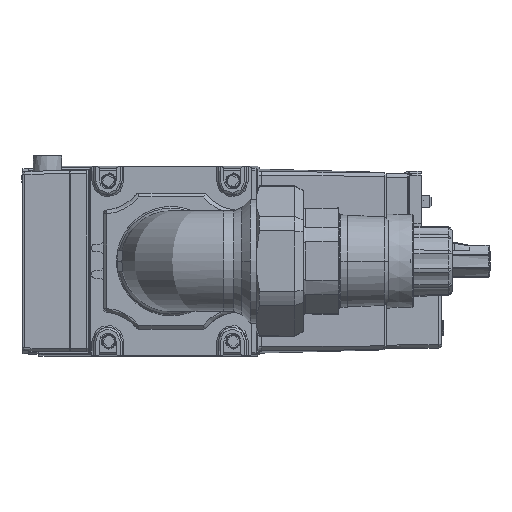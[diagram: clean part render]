
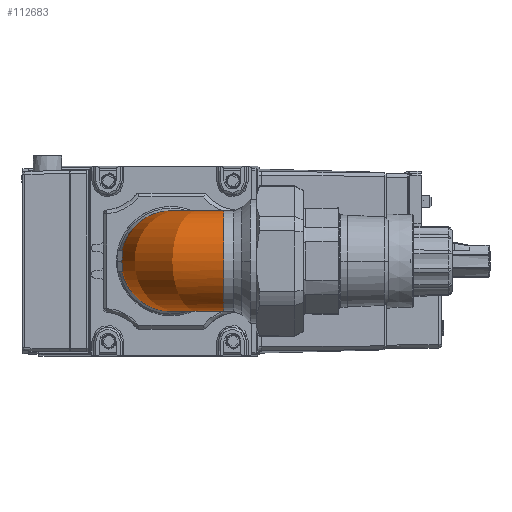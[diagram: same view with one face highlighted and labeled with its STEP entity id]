
A CAD part, left-side view. The second image highlights one B-rep face of the part: STEP entity #112683.
In plain terms, the highlighted toroidal (fillet/blend) face has major radius 28 mm and minor radius 26.65 mm.
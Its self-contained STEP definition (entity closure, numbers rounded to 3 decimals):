
#1986 = CARTESIAN_POINT ( 'NONE',  ( -3.2, -26.575, -2. ) ) ;
#4062 = CARTESIAN_POINT ( 'NONE',  ( -3.2, 26.076, 5.5 ) ) ;
#4167 = CARTESIAN_POINT ( 'NONE',  ( -3.2, -28., -2. ) ) ;
#4674 = CIRCLE ( 'NONE', #96260, 26.65 ) ;
#4980 = CARTESIAN_POINT ( 'NONE',  ( -31.2, -28., 0. ) ) ;
#6630 = AXIS2_PLACEMENT_3D ( 'NONE', #44639, #105920, #53480 ) ;
#9391 = VERTEX_POINT ( 'NONE', #112924 ) ;
#12886 = EDGE_CURVE ( 'NONE', #85911, #56381, #43354, .T. ) ;
#12959 = DIRECTION ( 'NONE',  ( 0., -1., 0. ) ) ;
#13126 = CIRCLE ( 'NONE', #46553, 1.425 ) ;
#13718 = CARTESIAN_POINT ( 'NONE',  ( -11.007, 25.51, 5.5 ) ) ;
#13786 = DIRECTION ( 'NONE',  ( -1., 0., 0. ) ) ;
#14712 = CIRCLE ( 'NONE', #52782, 1.425 ) ;
#16890 = EDGE_CURVE ( 'NONE', #56381, #20081, #91647, .T. ) ;
#16931 = DIRECTION ( 'NONE',  ( 0., 0., 1. ) ) ;
#20081 = VERTEX_POINT ( 'NONE', #68589 ) ;
#22061 = EDGE_CURVE ( 'NONE', #65025, #85911, #69643, .T. ) ;
#22132 = CARTESIAN_POINT ( 'NONE',  ( -10.873, 25.917, 3.684 ) ) ;
#22512 = CARTESIAN_POINT ( 'NONE',  ( -11.168, 26.066, 0. ) ) ;
#24093 = DIRECTION ( 'NONE',  ( 0., 0., -1. ) ) ;
#25259 = EDGE_CURVE ( 'NONE', #102565, #57806, #13126, .T. ) ;
#26131 = ORIENTED_EDGE ( 'NONE', *, *, #68740, .T. ) ;
#26315 = CIRCLE ( 'NONE', #31869, 26.65 ) ;
#29608 = CARTESIAN_POINT ( 'NONE',  ( -11.007, 25.51, -5.5 ) ) ;
#31201 = CARTESIAN_POINT ( 'NONE',  ( -3.2, -28., 0. ) ) ;
#31253 = ORIENTED_EDGE ( 'NONE', *, *, #84365, .T. ) ;
#31440 = CIRCLE ( 'NONE', #93140, 54.076 ) ;
#31869 = AXIS2_PLACEMENT_3D ( 'NONE', #49835, #111090, #58630 ) ;
#37287 = ORIENTED_EDGE ( 'NONE', *, *, #105089, .T. ) ;
#43354 = B_SPLINE_CURVE_WITH_KNOTS ( 'NONE', 3,
 ( #13718, #22132, #66178, #22512 ),
 .UNSPECIFIED., .F., .F.,
 ( 4, 4 ),
 ( 0., 0.006 ),
 .UNSPECIFIED. ) ;
#43554 = DIRECTION ( 'NONE',  ( 0., 0., -1. ) ) ;
#44639 = CARTESIAN_POINT ( 'NONE',  ( -3.2, 0., 0. ) ) ;
#46553 = AXIS2_PLACEMENT_3D ( 'NONE', #4167, #65410, #12959 ) ;
#48224 = AXIS2_PLACEMENT_3D ( 'NONE', #69377, #16931, #78164 ) ;
#49417 = AXIS2_PLACEMENT_3D ( 'NONE', #31201, #57284, #66482 ) ;
#49835 = CARTESIAN_POINT ( 'NONE',  ( -3.2, 0., 0. ) ) ;
#52782 = AXIS2_PLACEMENT_3D ( 'NONE', #96029, #43554, #104837 ) ;
#53480 = DIRECTION ( 'NONE',  ( 0., 0., 1. ) ) ;
#56081 = CARTESIAN_POINT ( 'NONE',  ( -11.007, 25.51, 5.5 ) ) ;
#56381 = VERTEX_POINT ( 'NONE', #98145 ) ;
#57284 = DIRECTION ( 'NONE',  ( 0., 0., 1. ) ) ;
#57806 = VERTEX_POINT ( 'NONE', #105527 ) ;
#58630 = DIRECTION ( 'NONE',  ( 0., -1., 0. ) ) ;
#58928 = EDGE_CURVE ( 'NONE', #9391, #102565, #107117, .T. ) ;
#63606 = CARTESIAN_POINT ( 'NONE',  ( -3.2, -26.575, 2. ) ) ;
#65025 = VERTEX_POINT ( 'NONE', #4062 ) ;
#65410 = DIRECTION ( 'NONE',  ( 0., 0., 1. ) ) ;
#66178 = CARTESIAN_POINT ( 'NONE',  ( -10.927, 26.102, 1.85 ) ) ;
#66250 = DIRECTION ( 'NONE',  ( 0., 1., 0. ) ) ;
#66482 = DIRECTION ( 'NONE',  ( 1., 0., 0. ) ) ;
#68589 = CARTESIAN_POINT ( 'NONE',  ( -11.007, 25.51, -5.5 ) ) ;
#68740 = EDGE_CURVE ( 'NONE', #105000, #65025, #26315, .T. ) ;
#69377 = CARTESIAN_POINT ( 'NONE',  ( -3.2, -28., 5.5 ) ) ;
#69643 = CIRCLE ( 'NONE', #48224, 54.076 ) ;
#71176 = TOROIDAL_SURFACE ( 'NONE', #49417, 28., 26.65 ) ;
#71770 = ORIENTED_EDGE ( 'NONE', *, *, #58928, .T. ) ;
#73264 = CARTESIAN_POINT ( 'NONE',  ( -11.168, 26.066, 0. ) ) ;
#74984 = ORIENTED_EDGE ( 'NONE', *, *, #22061, .T. ) ;
#76153 = EDGE_CURVE ( 'NONE', #89598, #105000, #14712, .T. ) ;
#76561 = CARTESIAN_POINT ( 'NONE',  ( -3.2, -28., -5.5 ) ) ;
#77006 = ORIENTED_EDGE ( 'NONE', *, *, #76153, .T. ) ;
#78164 = DIRECTION ( 'NONE',  ( 1., 0., 0. ) ) ;
#82065 = CARTESIAN_POINT ( 'NONE',  ( -10.873, 25.917, -3.684 ) ) ;
#84365 = EDGE_CURVE ( 'NONE', #20081, #9391, #31440, .T. ) ;
#85332 = DIRECTION ( 'NONE',  ( 0., -1., 0. ) ) ;
#85911 = VERTEX_POINT ( 'NONE', #56081 ) ;
#89598 = VERTEX_POINT ( 'NONE', #90386 ) ;
#90386 = CARTESIAN_POINT ( 'NONE',  ( -4.625, -28., 2. ) ) ;
#91647 = B_SPLINE_CURVE_WITH_KNOTS ( 'NONE', 3,
 ( #73264, #108121, #82065, #29608 ),
 .UNSPECIFIED., .F., .F.,
 ( 4, 4 ),
 ( 0., 0.006 ),
 .UNSPECIFIED. ) ;
#93140 = AXIS2_PLACEMENT_3D ( 'NONE', #76561, #24093, #85332 ) ;
#95024 = ORIENTED_EDGE ( 'NONE', *, *, #25259, .T. ) ;
#96029 = CARTESIAN_POINT ( 'NONE',  ( -3.2, -28., 2. ) ) ;
#96260 = AXIS2_PLACEMENT_3D ( 'NONE', #4980, #66250, #13786 ) ;
#97262 = ORIENTED_EDGE ( 'NONE', *, *, #16890, .T. ) ;
#98145 = CARTESIAN_POINT ( 'NONE',  ( -11.168, 26.066, 0. ) ) ;
#99912 = FACE_OUTER_BOUND ( 'NONE', #100766, .T. ) ;
#99982 = ORIENTED_EDGE ( 'NONE', *, *, #12886, .T. ) ;
#100766 = EDGE_LOOP ( 'NONE', ( #74984, #99982, #97262, #31253, #71770, #95024, #37287, #77006, #26131 ) ) ;
#102565 = VERTEX_POINT ( 'NONE', #1986 ) ;
#104837 = DIRECTION ( 'NONE',  ( 1., 0., 0. ) ) ;
#105000 = VERTEX_POINT ( 'NONE', #63606 ) ;
#105089 = EDGE_CURVE ( 'NONE', #57806, #89598, #4674, .T. ) ;
#105527 = CARTESIAN_POINT ( 'NONE',  ( -4.625, -28., -2. ) ) ;
#105920 = DIRECTION ( 'NONE',  ( -1., 0., 0. ) ) ;
#107117 = CIRCLE ( 'NONE', #6630, 26.65 ) ;
#108121 = CARTESIAN_POINT ( 'NONE',  ( -10.927, 26.102, -1.85 ) ) ;
#111090 = DIRECTION ( 'NONE',  ( -1., 0., 0. ) ) ;
#112683 = ADVANCED_FACE ( 'NONE', ( #99912 ), #71176, .T. ) ;
#112924 = CARTESIAN_POINT ( 'NONE',  ( -3.2, 26.076, -5.5 ) ) ;
